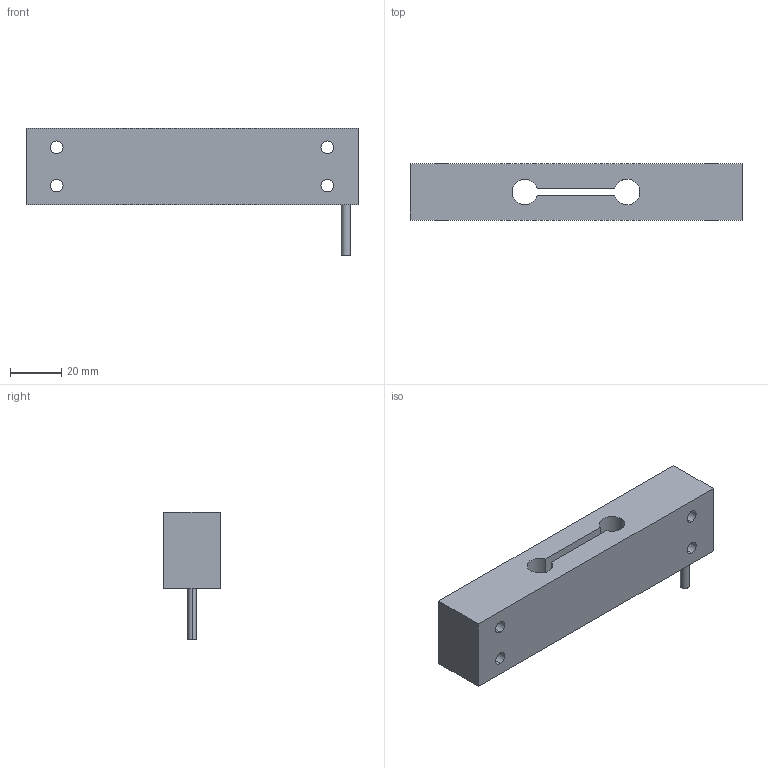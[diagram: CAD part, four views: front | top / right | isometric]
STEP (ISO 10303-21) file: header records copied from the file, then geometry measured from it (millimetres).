
FILE_DESCRIPTION (( 'STEP AP203' ), '1' );
FILE_NAME ('WTP-601-10KG.STEP', '2021-03-23T03:23:31', ( '' ), ( '' ), 'SwSTEP 2.0', 'SolidWorks 2014', '' );
FILE_SCHEMA (( 'CONFIG_CONTROL_DESIGN' ));
Length unit declared in the file: millimetre
Products named in the file (1): WTP-601-10KG
Bounding box: 130 x 22 x 50 mm (x, y, z)
Volume: 76838.5 mm3; surface area: 19319.8 mm2
Topology: 1 solids, 1 shells, 22 faces, 57 edges, 38 vertices
Faces by surface type: cylinder 13, plane 9
Entity records: 784 total; most frequent: DIRECTION 129, CARTESIAN_POINT 118, ORIENTED_EDGE 114, EDGE_CURVE 57, AXIS2_PLACEMENT_3D 49, VERTEX_POINT 38, EDGE_LOOP 33, VECTOR 31
